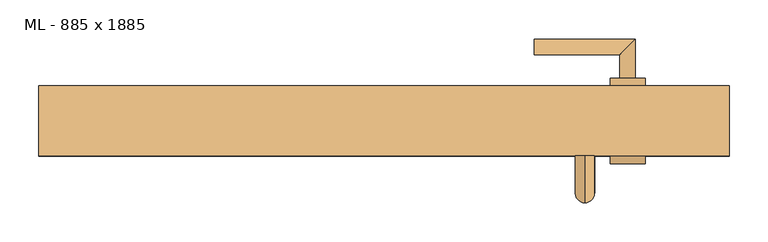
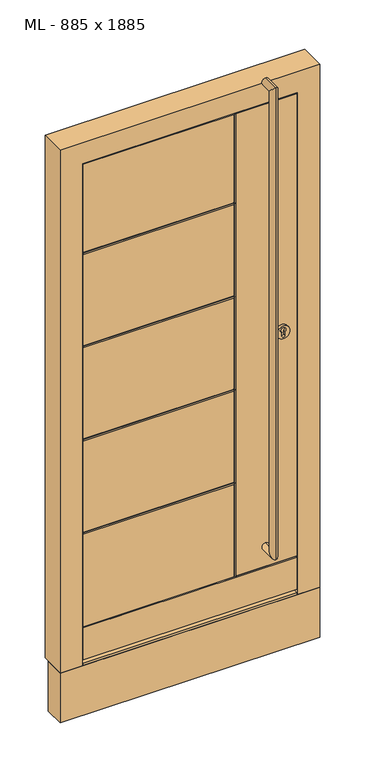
"""IFC4 building model written with IfcOpenShell, lengths in millimetres: door geometry, TU DF 1 - Haustüre : ML - 885 x 1885."""

from ifc_helpers import new_model, si_unit, point, frame, frame_2d, origin, place, context, project, spatial, polyline, circle_curve, ellipse_curve, trimmed, segment, composite_curve, outline, extrude, faceted_brep, source, transform, mapped, element, save
from ifc_brep_helpers import plane_surface, cylinder_surface, revolved_surface, advanced_brep


def ml_885_x_1885_d409164e(model_context):
    return source(origin(), model_context, "Body", "SolidModel", [
        advanced_brep(
        [(257.5, -230.0, 1875.0), (257.5, -230.0, 1900.0), (257.5, -230.0, 225.0), (257.5, -230.0, 200.0), (257.5, -265.0, 225.0), (257.5, -290.0, 200.0), (257.5, -290.0, 1900.0), (257.5, -265.0, 1875.0)],
        [
            (0, 1, circle_curve(frame((257.5, -230.0, 1887.5), z_axis=(0.0, 1.0, 0.0), x_axis=(0.0, 0.0, 1.0)), 12.5)),
            (1, 0, circle_curve(frame((257.5, -230.0, 1887.5), z_axis=(0.0, 1.0, 0.0), x_axis=(0.0, 0.0, 1.0)), 12.5)),
            (2, 3, circle_curve(frame((257.5, -230.0, 212.5), z_axis=(0.0, 1.0, 0.0), x_axis=(0.0, 0.0, -1.0)), 12.5)),
            (3, 2, circle_curve(frame((257.5, -230.0, 212.5), z_axis=(0.0, 1.0, 0.0), x_axis=(0.0, 0.0, -1.0)), 12.5)),
            (4, 5, ellipse_curve(frame((257.5, -277.5, 212.5), z_axis=(0.0, 0.7071067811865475, -0.7071067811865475), x_axis=(0.0, -0.7071067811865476, -0.7071067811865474)), 17.6776695, 12.5)),
            (5, 3),
            (2, 4),
            (5, 4, ellipse_curve(frame((257.5, -277.5, 212.5), z_axis=(0.0, 0.7071067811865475, -0.7071067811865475), x_axis=(0.0, -0.7071067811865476, -0.7071067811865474)), 17.6776695, 12.5)),
            (6, 7, ellipse_curve(frame((257.5, -277.5, 1887.5), z_axis=(0.0, -0.7071067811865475, -0.7071067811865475), x_axis=(0.0, -0.7071067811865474, 0.7071067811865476)), 17.6776695, 12.5)),
            (7, 4),
            (5, 6),
            (7, 6, ellipse_curve(frame((257.5, -277.5, 1887.5), z_axis=(0.0, -0.7071067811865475, -0.7071067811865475), x_axis=(0.0, -0.7071067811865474, 0.7071067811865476)), 17.6776695, 12.5)),
            (0, 7),
            (6, 1),
        ],
        [
            plane_surface(frame((257.5, -230.0, 1900.0), z_axis=(0.0, 1.0, 0.0), x_axis=(-1.0, 0.0, 0.0))),
            plane_surface(frame((257.5, -230.0, 200.0), z_axis=(0.0, 1.0, 0.0), x_axis=(-1.0, 0.0, 0.0))),
            cylinder_surface(frame((257.5, -290.0, 212.5), z_axis=(0.0, -1.0, 0.0), x_axis=(0.0, 0.0, -1.0)), 12.5),
            cylinder_surface(frame((257.5, -277.5, 1900.0), z_axis=(0.0, 0.0, 1.0), x_axis=(0.0, -1.0, 0.0)), 12.5),
            cylinder_surface(frame((257.5, -230.0, 1887.5), z_axis=(0.0, 1.0, 0.0), x_axis=(0.0, 0.0, 1.0)), 12.5),
        ],
        [
            (0, [[1, 2]]),
            (1, [[3, 4]]),
            (2, [[5, 6, -3, 7]]),
            (2, [[8, -7, -4, -6]]),
            (3, [[9, 10, -8, 11]]),
            (3, [[12, -11, -5, -10]]),
            (4, [[-1, 13, -9, 14]]),
            (4, [[-2, -14, -12, -13]]),
        ],
    ),
        advanced_brep(
        [(335.0, -230.0, 970.0), (290.0, -230.0, 970.0), (335.0, -240.0, 970.0), (290.0, -240.0, 970.0), (317.5, -240.0, 958.5), (307.5, -240.0, 958.5), (307.5, -240.0, 971.1261365), (317.5, -240.0, 971.1261365), (317.5, -232.0, 971.1261365), (317.5, -232.0, 958.5), (307.5, -232.0, 971.1261365), (307.5, -232.0, 958.5)],
        [
            (0, 1, circle_curve(frame((312.5, -230.0, 970.0), z_axis=(0.0, 1.0, 0.0), x_axis=(-1.0, 0.0, 0.0)), 22.5)),
            (1, 0, circle_curve(frame((312.5, -230.0, 970.0), z_axis=(0.0, 1.0, 0.0), x_axis=(-1.0, 0.0, 0.0)), 22.5)),
            (2, 3, circle_curve(frame((312.5, -240.0, 970.0), z_axis=(0.0, -1.0, 0.0), x_axis=(-1.0, 0.0, 0.0)), 22.5)),
            (3, 2, circle_curve(frame((312.5, -240.0, 970.0), z_axis=(0.0, -1.0, 0.0), x_axis=(-1.0, 0.0, 0.0)), 22.5)),
            (4, 5, circle_curve(frame((312.5, -240.0, 958.5), z_axis=(0.0, 1.0, 0.0), x_axis=(-1.0, 0.0, 0.0)), 5.0)),
            (5, 6),
            (6, 7, circle_curve(frame((312.5, -240.0, 978.0), z_axis=(0.0, 1.0, 0.0), x_axis=(-1.0, 0.0, 0.0)), 8.5)),
            (7, 4),
            (0, 2),
            (3, 1),
            (7, 8),
            (8, 9),
            (9, 4),
            (6, 10),
            (10, 8, circle_curve(frame((312.5, -232.0, 978.0), z_axis=(0.0, 1.0, 0.0), x_axis=(-1.0, 0.0, 0.0)), 8.5)),
            (5, 11),
            (11, 10),
            (9, 11, circle_curve(frame((312.5, -232.0, 958.5), z_axis=(0.0, 1.0, 0.0), x_axis=(-1.0, 0.0, 0.0)), 5.0)),
        ],
        [
            plane_surface(frame((290.0, -230.0, 970.0), z_axis=(0.0, 1.0, 0.0), x_axis=(0.0, 0.0, 1.0))),
            plane_surface(frame((290.0, -240.0, 970.0), z_axis=(0.0, -1.0, 0.0), x_axis=(0.0, 0.0, -1.0))),
            cylinder_surface(frame((312.5, -240.0, 970.0), z_axis=(0.0, 1.0, 0.0), x_axis=(-1.0, 0.0, 0.0)), 22.5),
            plane_surface(frame((317.5, -230.0, 958.5), z_axis=(-1.0, 0.0, 0.0), x_axis=(0.0, -1.0, 0.0))),
            revolved_surface(polyline([(304.0, -240.0, 978.0), (304.0, -232.0, 978.0)]), (312.5, -230.0, 978.0), (0.0, -1.0, 0.0)),
            plane_surface(frame((307.5, -230.0, 971.1261365), z_axis=(1.0, 0.0, 0.0), x_axis=(0.0, -1.0, 0.0))),
            revolved_surface(polyline([(307.5, -240.0, 958.5), (307.5, -232.0, 958.5)]), (312.5, -230.0, 958.5), (0.0, -1.0, 0.0)),
            plane_surface(frame((304.0, -232.0, 978.0), z_axis=(0.0, -1.0, 0.0), x_axis=(0.0, 0.0, -1.0))),
        ],
        [
            (0, [[1, 2]]),
            (1, [[3, 4], [5, 6, 7, 8]]),
            (2, [[-1, 9, -4, 10]]),
            (2, [[-2, -10, -3, -9]]),
            (3, [[-8, 11, 12, 13]]),
            (4, [[-7, 14, 15, -11]]),
            (5, [[-6, 16, 17, -14]]),
            (6, [[-5, -13, 18, -16]]),
            (7, [[-12, -15, -17, -18]]),
        ],
    ),
        advanced_brep(
        [(149.5, -140.0, 480.2), (-393.5, -140.0, 480.2), (-393.5, -140.0, 808.4), (149.5, -140.0, 808.4), (149.5, -140.0, 816.4), (-393.5, -140.0, 816.4), (-393.5, -140.0, 1144.6), (149.5, -140.0, 1144.6), (393.5, -140.0, 1836.0), (393.5, -140.0, 8.0), (157.5, -140.0, 8.0), (157.5, -140.0, 1836.0), (149.5, -140.0, 1152.6), (-393.5, -140.0, 1152.6), (-393.5, -140.0, 1480.8), (149.5, -140.0, 1480.8), (-393.5, -140.0, 8.0), (-393.5, -140.0, 136.0), (149.5, -140.0, 136.0), (149.5, -140.0, 8.0), (-393.5, -140.0, 144.0), (-393.5, -140.0, 472.2), (149.5, -140.0, 472.2), (149.5, -140.0, 144.0), (-393.5, -140.0, 1836.0), (149.5, -140.0, 1836.0), (149.5, -140.0, 1488.8), (-393.5, -140.0, 1488.8), (393.5, -160.0, 1836.0), (393.5, -160.0, 8.0), (-393.5, -160.0, 1836.0), (-393.5, -160.0, 8.0), (-378.5, -160.0, 1821.0), (378.5, -160.0, 1821.0), (378.5, -160.0, 20.0), (-378.5, -160.0, 20.0), (378.5, -210.0, 1821.0), (378.5, -210.0, 20.0), (-378.5, -210.0, 1821.0), (-378.5, -210.0, 20.0), (-363.5, -210.0, 1806.0), (363.5, -210.0, 1806.0), (363.5, -210.0, 140.0), (-363.5, -210.0, 140.0), (363.5, -230.0, 1806.0), (363.5, -230.0, 140.0), (-363.5, -230.0, 480.2), (149.5, -230.0, 480.2), (149.5, -230.0, 808.4), (-363.5, -230.0, 808.4), (-363.5, -230.0, 816.4), (149.5, -230.0, 816.4), (149.5, -230.0, 1144.6), (-363.5, -230.0, 1144.6), (-363.5, -230.0, 1152.6), (149.5, -230.0, 1152.6), (149.5, -230.0, 1480.8), (-363.5, -230.0, 1480.8), (157.5, -230.0, 1806.0), (157.5, -230.0, 140.0), (-363.5, -230.0, 472.2), (-363.5, -230.0, 140.0), (149.5, -230.0, 140.0), (149.5, -230.0, 472.2), (149.5, -230.0, 1806.0), (-363.5, -230.0, 1806.0), (-363.5, -230.0, 1488.8), (149.5, -230.0, 1488.8), (-363.5, -226.0, 476.2), (-363.5, -226.0, 812.4), (-363.5, -226.0, 1148.6), (-363.5, -226.0, 1484.8), (-393.5, -144.0, 1484.8), (-393.5, -144.0, 1148.6), (-393.5, -144.0, 812.4), (-393.5, -144.0, 476.2), (-393.5, -144.0, 140.0), (153.5, -144.0, 1836.0), (153.5, -226.0, 1806.0), (153.5, -144.0, 8.0), (153.5, -226.0, 140.0), (153.5, -226.0, 476.2), (153.5, -144.0, 476.2), (153.5, -144.0, 140.0), (153.5, -226.0, 1484.8), (153.5, -226.0, 1148.6), (153.5, -226.0, 812.4), (153.5, -144.0, 812.4), (153.5, -144.0, 1148.6), (153.5, -144.0, 1484.8)],
        [
            (0, 1),
            (1, 2),
            (2, 3),
            (3, 0),
            (4, 5),
            (5, 6),
            (6, 7),
            (7, 4),
            (8, 9),
            (9, 10),
            (10, 11),
            (11, 8),
            (12, 13),
            (13, 14),
            (14, 15),
            (15, 12),
            (16, 17),
            (17, 18),
            (18, 19),
            (19, 16),
            (20, 21),
            (21, 22),
            (22, 23),
            (23, 20),
            (24, 25),
            (25, 26),
            (26, 27),
            (27, 24),
            (8, 28),
            (28, 29),
            (29, 9),
            (28, 30),
            (30, 31),
            (31, 29),
            (32, 33),
            (33, 34),
            (34, 35),
            (35, 32),
            (33, 36),
            (36, 37),
            (37, 34),
            (36, 38),
            (38, 39),
            (39, 37),
            (40, 41),
            (41, 42),
            (42, 43),
            (43, 40),
            (41, 44),
            (44, 45),
            (45, 42),
            (46, 47),
            (47, 48),
            (48, 49),
            (49, 46),
            (50, 51),
            (51, 52),
            (52, 53),
            (53, 50),
            (54, 55),
            (55, 56),
            (56, 57),
            (57, 54),
            (44, 58),
            (58, 59),
            (59, 45),
            (60, 61),
            (61, 62),
            (62, 63),
            (63, 60),
            (64, 65),
            (65, 66),
            (66, 67),
            (67, 64),
            (65, 40),
            (43, 61),
            (60, 68, circle_curve(frame((-363.5, -226.0, 472.2), z_axis=(-1.0, 0.0, 0.0), x_axis=(0.0, -1.0, 0.0)), 4.0)),
            (68, 46, circle_curve(frame((-363.5, -226.0, 480.2), z_axis=(-1.0, 0.0, 0.0), x_axis=(0.0, -1.0, 0.0)), 4.0)),
            (49, 69, circle_curve(frame((-363.5, -226.0, 808.4), z_axis=(-1.0, 0.0, 0.0), x_axis=(0.0, -1.0, 0.0)), 4.0)),
            (69, 50, circle_curve(frame((-363.5, -226.0, 816.4), z_axis=(-1.0, 0.0, 0.0), x_axis=(0.0, -1.0, 0.0)), 4.0)),
            (53, 70, circle_curve(frame((-363.5, -226.0, 1144.6), z_axis=(-1.0, 0.0, 0.0), x_axis=(0.0, -1.0, 0.0)), 4.0)),
            (70, 54, circle_curve(frame((-363.5, -226.0, 1152.6), z_axis=(-1.0, 0.0, 0.0), x_axis=(0.0, -1.0, 0.0)), 4.0)),
            (57, 71, circle_curve(frame((-363.5, -226.0, 1480.8), z_axis=(-1.0, 0.0, 0.0), x_axis=(0.0, -1.0, 0.0)), 4.0)),
            (71, 66, circle_curve(frame((-363.5, -226.0, 1488.8), z_axis=(-1.0, 0.0, 0.0), x_axis=(0.0, -1.0, 0.0)), 4.0)),
            (38, 32),
            (35, 39),
            (30, 24),
            (27, 72, circle_curve(frame((-393.5, -144.0, 1488.8), z_axis=(-1.0, 0.0, 0.0), x_axis=(0.0, 1.0, 0.0)), 4.0)),
            (72, 14, circle_curve(frame((-393.5, -144.0, 1480.8), z_axis=(-1.0, 0.0, 0.0), x_axis=(0.0, 1.0, 0.0)), 4.0)),
            (13, 73, circle_curve(frame((-393.5, -144.0, 1152.6), z_axis=(-1.0, 0.0, 0.0), x_axis=(0.0, 1.0, 0.0)), 4.0)),
            (73, 6, circle_curve(frame((-393.5, -144.0, 1144.6), z_axis=(-1.0, 0.0, 0.0), x_axis=(0.0, 1.0, 0.0)), 4.0)),
            (5, 74, circle_curve(frame((-393.5, -144.0, 816.4), z_axis=(-1.0, 0.0, 0.0), x_axis=(0.0, 1.0, 0.0)), 4.0)),
            (74, 2, circle_curve(frame((-393.5, -144.0, 808.4), z_axis=(-1.0, 0.0, 0.0), x_axis=(0.0, 1.0, 0.0)), 4.0)),
            (1, 75, circle_curve(frame((-393.5, -144.0, 480.2), z_axis=(-1.0, 0.0, 0.0), x_axis=(0.0, 1.0, 0.0)), 4.0)),
            (75, 21, circle_curve(frame((-393.5, -144.0, 472.2), z_axis=(-1.0, 0.0, 0.0), x_axis=(0.0, 1.0, 0.0)), 4.0)),
            (20, 76, circle_curve(frame((-393.5, -144.0, 144.0), z_axis=(-1.0, 0.0, 0.0), x_axis=(0.0, 1.0, 0.0)), 4.0)),
            (76, 17, circle_curve(frame((-393.5, -144.0, 136.0), z_axis=(-1.0, 0.0, 0.0), x_axis=(0.0, 1.0, 0.0)), 4.0)),
            (16, 31),
            (11, 77, circle_curve(frame((157.5, -144.0, 1836.0), z_axis=(0.0, 0.0, 1.0), x_axis=(0.0, 1.0, 0.0)), 4.0)),
            (77, 25, circle_curve(frame((149.5, -144.0, 1836.0), z_axis=(0.0, 0.0, 1.0), x_axis=(0.0, 1.0, 0.0)), 4.0)),
            (64, 78, circle_curve(frame((149.5, -226.0, 1806.0), z_axis=(0.0, 0.0, 1.0), x_axis=(0.0, -1.0, 0.0)), 4.0)),
            (78, 58, circle_curve(frame((157.5, -226.0, 1806.0), z_axis=(0.0, 0.0, 1.0), x_axis=(0.0, -1.0, 0.0)), 4.0)),
            (19, 79, circle_curve(frame((149.5, -144.0, 8.0), z_axis=(0.0, 0.0, -1.0), x_axis=(0.0, 1.0, 0.0)), 4.0)),
            (79, 10, circle_curve(frame((157.5, -144.0, 8.0), z_axis=(0.0, 0.0, -1.0), x_axis=(0.0, 1.0, 0.0)), 4.0)),
            (59, 80, circle_curve(frame((157.5, -226.0, 140.0), z_axis=(0.0, 0.0, -1.0), x_axis=(0.0, -1.0, 0.0)), 4.0)),
            (80, 62, circle_curve(frame((149.5, -226.0, 140.0), z_axis=(0.0, 0.0, -1.0), x_axis=(0.0, -1.0, 0.0)), 4.0)),
            (81, 68),
            (63, 81, ellipse_curve(frame((149.5, -226.0, 472.2), z_axis=(-0.7071067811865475, 0.0, 0.7071067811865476), x_axis=(-0.7071067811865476, 0.0, -0.7071067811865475)), 5.6568542, 4.0)),
            (81, 47, ellipse_curve(frame((149.5, -226.0, 480.2), z_axis=(-0.7071067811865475, 0.0, -0.7071067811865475), x_axis=(-0.7071067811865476, 0.0, 0.7071067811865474)), 5.6568542, 4.0)),
            (75, 82),
            (82, 22, ellipse_curve(frame((149.5, -144.0, 472.2), z_axis=(-0.7071067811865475, 0.0, 0.7071067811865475), x_axis=(0.7071067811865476, 0.0, 0.7071067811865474)), 5.6568542, 4.0)),
            (0, 82, ellipse_curve(frame((149.5, -144.0, 480.2), z_axis=(-0.7071067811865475, 0.0, -0.7071067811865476), x_axis=(0.7071067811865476, 0.0, -0.7071067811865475)), 5.6568542, 4.0)),
            (76, 83),
            (83, 18, ellipse_curve(frame((149.5, -144.0, 136.0), z_axis=(-0.7071067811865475, 0.0, 0.7071067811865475), x_axis=(-0.7071067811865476, 0.0, -0.7071067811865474)), 5.6568542, 4.0)),
            (23, 83, ellipse_curve(frame((149.5, -144.0, 144.0), z_axis=(-0.7071067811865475, 0.0, -0.7071067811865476), x_axis=(-0.7071067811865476, 0.0, 0.7071067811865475)), 5.6568542, 4.0)),
            (81, 80),
            (78, 84),
            (84, 85),
            (85, 86),
            (86, 81),
            (67, 84, ellipse_curve(frame((149.5, -226.0, 1488.8), z_axis=(0.7071067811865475, 0.0, 0.7071067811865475), x_axis=(-0.7071067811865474, 0.0, 0.7071067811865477)), 5.6568542, 4.0)),
            (86, 48, ellipse_curve(frame((149.5, -226.0, 808.4), z_axis=(0.7071067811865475, 0.0, -0.7071067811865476), x_axis=(0.7071067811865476, 0.0, 0.7071067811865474)), 5.6568542, 4.0)),
            (51, 86, ellipse_curve(frame((149.5, -226.0, 816.4), z_axis=(0.7071067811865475, 0.0, 0.7071067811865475), x_axis=(-0.7071067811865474, 0.0, 0.7071067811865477)), 5.6568542, 4.0)),
            (85, 52, ellipse_curve(frame((149.5, -226.0, 1144.6), z_axis=(0.7071067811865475, 0.0, -0.7071067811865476), x_axis=(0.7071067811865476, 0.0, 0.7071067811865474)), 5.6568542, 4.0)),
            (55, 85, ellipse_curve(frame((149.5, -226.0, 1152.6), z_axis=(0.7071067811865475, 0.0, 0.7071067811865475), x_axis=(-0.7071067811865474, 0.0, 0.7071067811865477)), 5.6568542, 4.0)),
            (84, 56, ellipse_curve(frame((149.5, -226.0, 1480.8), z_axis=(0.7071067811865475, 0.0, -0.7071067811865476), x_axis=(0.7071067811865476, 0.0, 0.7071067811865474)), 5.6568542, 4.0)),
            (86, 69),
            (83, 82),
            (82, 87),
            (87, 88),
            (88, 89),
            (89, 77),
            (79, 83),
            (89, 26, ellipse_curve(frame((149.5, -144.0, 1488.8), z_axis=(0.7071067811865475, 0.0, 0.7071067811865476), x_axis=(0.7071067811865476, 0.0, -0.7071067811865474)), 5.6568542, 4.0)),
            (3, 87, ellipse_curve(frame((149.5, -144.0, 808.4), z_axis=(0.7071067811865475, 0.0, -0.7071067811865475), x_axis=(-0.7071067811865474, 0.0, -0.7071067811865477)), 5.6568542, 4.0)),
            (87, 4, ellipse_curve(frame((149.5, -144.0, 816.4), z_axis=(0.7071067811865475, 0.0, 0.7071067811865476), x_axis=(0.7071067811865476, 0.0, -0.7071067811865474)), 5.6568542, 4.0)),
            (7, 88, ellipse_curve(frame((149.5, -144.0, 1144.6), z_axis=(0.7071067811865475, 0.0, -0.7071067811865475), x_axis=(-0.7071067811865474, 0.0, -0.7071067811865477)), 5.6568542, 4.0)),
            (88, 12, ellipse_curve(frame((149.5, -144.0, 1152.6), z_axis=(0.7071067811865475, 0.0, 0.7071067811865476), x_axis=(0.7071067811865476, 0.0, -0.7071067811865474)), 5.6568542, 4.0)),
            (15, 89, ellipse_curve(frame((149.5, -144.0, 1480.8), z_axis=(0.7071067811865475, 0.0, -0.7071067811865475), x_axis=(-0.7071067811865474, 0.0, -0.7071067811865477)), 5.6568542, 4.0)),
            (74, 87),
            (73, 88),
            (85, 70),
            (72, 89),
            (84, 71),
        ],
        [
            plane_surface(frame((393.5, -140.0, 1836.0), z_axis=(0.0, 1.0, 0.0), x_axis=(0.0, 0.0, -1.0))),
            plane_surface(frame((393.5, -230.0, 1836.0), z_axis=(1.0, 0.0, 0.0), x_axis=(0.0, 0.0, -1.0))),
            plane_surface(frame((378.5, -160.0, 0.0), z_axis=(0.0, -1.0, 0.0), x_axis=(0.0, 0.0, 1.0))),
            plane_surface(frame((378.5, -210.0, 0.0), z_axis=(1.0, 0.0, 0.0), x_axis=(0.0, 0.0, 1.0))),
            plane_surface(frame((363.5, -210.0, 0.0), z_axis=(0.0, -1.0, 0.0), x_axis=(0.0, 0.0, 1.0))),
            plane_surface(frame((363.5, -230.0, 0.0), z_axis=(1.0, 0.0, 0.0), x_axis=(0.0, 0.0, 1.0))),
            plane_surface(frame((-393.5, -230.0, 1836.0), z_axis=(0.0, -1.0, 0.0), x_axis=(0.0, 0.0, -1.0))),
            plane_surface(frame((-363.5, -230.0, 1806.0), z_axis=(-1.0, 0.0, 0.0), x_axis=(0.0, 0.0, -1.0))),
            plane_surface(frame((-378.5, -210.0, 1821.0), z_axis=(-1.0, 0.0, 0.0), x_axis=(0.0, 0.0, -1.0))),
            plane_surface(frame((-393.5, -140.0, 1836.0), z_axis=(-1.0, 0.0, 0.0), x_axis=(0.0, 0.0, -1.0))),
            plane_surface(frame((393.5, -230.0, 1836.0), z_axis=(0.0, 0.0, 1.0), x_axis=(1.0, 0.0, 0.0))),
            plane_surface(frame((363.5, -230.0, 1806.0), z_axis=(0.0, 0.0, 1.0), x_axis=(-1.0, 0.0, 0.0))),
            plane_surface(frame((378.5, -210.0, 1821.0), z_axis=(0.0, 0.0, 1.0), x_axis=(-1.0, 0.0, 0.0))),
            plane_surface(frame((-393.5, -230.0, 20.0), z_axis=(0.0, 0.0, -1.0), x_axis=(1.0, 0.0, 0.0))),
            plane_surface(frame((-393.5, -160.0, 8.0), z_axis=(0.0, 0.0, -1.0), x_axis=(1.0, 0.0, 0.0))),
            plane_surface(frame((-393.5, -230.0, 140.0), z_axis=(0.0, 0.0, -1.0), x_axis=(1.0, 0.0, 0.0))),
            cylinder_surface(frame((153.5, -226.0, 472.2), z_axis=(-1.0, 0.0, 0.0), x_axis=(0.0, -1.0, 0.0)), 4.0),
            cylinder_surface(frame((153.5, -226.0, 480.2), z_axis=(-1.0, 0.0, 0.0), x_axis=(0.0, -1.0, 0.0)), 4.0),
            cylinder_surface(frame((-433.5, -144.0, 472.2), z_axis=(1.0, 0.0, 0.0), x_axis=(0.0, 1.0, 0.0)), 4.0),
            cylinder_surface(frame((-433.5, -144.0, 480.2), z_axis=(1.0, 0.0, 0.0), x_axis=(0.0, 1.0, 0.0)), 4.0),
            cylinder_surface(frame((153.5, -144.0, 136.0), z_axis=(-1.0, 0.0, 0.0), x_axis=(0.0, 1.0, 0.0)), 4.0),
            cylinder_surface(frame((153.5, -144.0, 144.0), z_axis=(-1.0, 0.0, 0.0), x_axis=(0.0, 1.0, 0.0)), 4.0),
            cylinder_surface(frame((157.5, -226.0, -10.0), z_axis=(0.0, 0.0, 1.0), x_axis=(0.0, -1.0, 0.0)), 4.0),
            cylinder_surface(frame((149.5, -226.0, -10.0), z_axis=(0.0, 0.0, 1.0), x_axis=(0.0, -1.0, 0.0)), 4.0),
            cylinder_surface(frame((153.5, -226.0, 808.4), z_axis=(-1.0, 0.0, 0.0), x_axis=(0.0, -1.0, 0.0)), 4.0),
            cylinder_surface(frame((153.5, -226.0, 816.4), z_axis=(-1.0, 0.0, 0.0), x_axis=(0.0, -1.0, 0.0)), 4.0),
            cylinder_surface(frame((157.5, -144.0, 1846.0), z_axis=(0.0, 0.0, -1.0), x_axis=(0.0, 1.0, 0.0)), 4.0),
            cylinder_surface(frame((149.5, -144.0, 1846.0), z_axis=(0.0, 0.0, -1.0), x_axis=(0.0, 1.0, 0.0)), 4.0),
            cylinder_surface(frame((-433.5, -144.0, 808.4), z_axis=(1.0, 0.0, 0.0), x_axis=(0.0, 1.0, 0.0)), 4.0),
            cylinder_surface(frame((-433.5, -144.0, 816.4), z_axis=(1.0, 0.0, 0.0), x_axis=(0.0, 1.0, 0.0)), 4.0),
            cylinder_surface(frame((-433.5, -144.0, 1144.6), z_axis=(1.0, 0.0, 0.0), x_axis=(0.0, 1.0, 0.0)), 4.0),
            cylinder_surface(frame((-433.5, -144.0, 1152.6), z_axis=(1.0, 0.0, 0.0), x_axis=(0.0, 1.0, 0.0)), 4.0),
            cylinder_surface(frame((153.5, -226.0, 1144.6), z_axis=(-1.0, 0.0, 0.0), x_axis=(0.0, -1.0, 0.0)), 4.0),
            cylinder_surface(frame((153.5, -226.0, 1152.6), z_axis=(-1.0, 0.0, 0.0), x_axis=(0.0, -1.0, 0.0)), 4.0),
            cylinder_surface(frame((-433.5, -144.0, 1480.8), z_axis=(1.0, 0.0, 0.0), x_axis=(0.0, 1.0, 0.0)), 4.0),
            cylinder_surface(frame((-433.5, -144.0, 1488.8), z_axis=(1.0, 0.0, 0.0), x_axis=(0.0, 1.0, 0.0)), 4.0),
            cylinder_surface(frame((153.5, -226.0, 1480.8), z_axis=(-1.0, 0.0, 0.0), x_axis=(0.0, -1.0, 0.0)), 4.0),
            cylinder_surface(frame((153.5, -226.0, 1488.8), z_axis=(-1.0, 0.0, 0.0), x_axis=(0.0, -1.0, 0.0)), 4.0),
        ],
        [
            (0, [[1, 2, 3, 4]]),
            (0, [[5, 6, 7, 8]]),
            (0, [[9, 10, 11, 12]]),
            (0, [[13, 14, 15, 16]]),
            (0, [[17, 18, 19, 20]]),
            (0, [[21, 22, 23, 24]]),
            (0, [[25, 26, 27, 28]]),
            (1, [[29, 30, 31, -9]]),
            (2, [[32, 33, 34, -30], [35, 36, 37, 38]]),
            (3, [[39, 40, 41, -36]]),
            (4, [[42, 43, 44, -40], [45, 46, 47, 48]]),
            (5, [[49, 50, 51, -46]]),
            (6, [[52, 53, 54, 55]]),
            (6, [[56, 57, 58, 59]]),
            (6, [[60, 61, 62, 63]]),
            (6, [[-50, 64, 65, 66]]),
            (6, [[67, 68, 69, 70]]),
            (6, [[71, 72, 73, 74]]),
            (7, [[75, -48, 76, -67, 77, 78, -55, 79, 80, -59, 81, 82, -63, 83, 84, -72]]),
            (8, [[85, -38, 86, -43]]),
            (9, [[87, -28, 88, 89, -14, 90, 91, -6, 92, 93, -2, 94, 95, -21, 96, 97, -17, 98, -33]]),
            (10, [[-29, -12, 99, 100, -25, -87, -32]]),
            (11, [[-49, -45, -75, -71, 101, 102, -64]]),
            (12, [[-42, -39, -35, -85]]),
            (13, [[-37, -41, -44, -86]]),
            (14, [[-31, -34, -98, -20, 103, 104, -10]]),
            (15, [[-47, -51, -66, 105, 106, -68, -76]]),
            (16, [[107, -77, -70, 108]]),
            (17, [[-107, 109, -52, -78]]),
            (18, [[110, 111, -22, -95]]),
            (19, [[-110, -94, -1, 112]]),
            (20, [[113, 114, -18, -97]]),
            (21, [[-113, -96, -24, 115]]),
            (22, [[116, -105, -65, -102, 117, 118, 119, 120]]),
            (23, [[-101, -74, 121, -117]]),
            (23, [[-109, -120, 122, -53]]),
            (23, [[-116, -108, -69, -106]]),
            (23, [[123, -119, 124, -57]]),
            (23, [[125, -118, 126, -61]]),
            (24, [[127, -79, -54, -122]]),
            (25, [[-127, -123, -56, -80]]),
            (26, [[128, 129, 130, 131, 132, -99, -11, -104, 133]]),
            (27, [[-100, -132, 134, -26]]),
            (27, [[-112, -4, 135, -129]]),
            (27, [[-133, -103, -19, -114]]),
            (27, [[-128, -115, -23, -111]]),
            (27, [[136, -8, 137, -130]]),
            (27, [[138, -16, 139, -131]]),
            (28, [[140, -135, -3, -93]]),
            (29, [[-140, -92, -5, -136]]),
            (30, [[141, -137, -7, -91]]),
            (31, [[-141, -90, -13, -138]]),
            (32, [[142, -81, -58, -124]]),
            (33, [[-142, -125, -60, -82]]),
            (34, [[143, -139, -15, -89]]),
            (35, [[-143, -88, -27, -134]]),
            (36, [[144, -83, -62, -126]]),
            (37, [[-144, -121, -73, -84]]),
        ],
    ),
        extrude(outline(polyline([(-210.0, 140.0), (-210.0, 20.0), (-221.9609036, 20.0), (-221.9609036, 24.0), (-225.9609036, 24.0), (-225.9609036, 20.0), (-230.0, 20.0), (-230.0, 136.0), (-226.0, 136.0), (-226.0, 140.0), (-210.0, 140.0)])), frame((-363.5, 0.0, 0.0), z_axis=(1.0, 0.0, 0.0), x_axis=(0.0, 1.0, 0.0)), (0.0, 0.0, 1.0), 727.0),
        faceted_brep([(363.5, -210.0, 0.0), (363.5, -210.0, 9.0), (363.5, -230.0, 7.0), (363.5, -230.0, 0.0), (-363.5, -210.0, 0.0), (-363.5, -210.0, 9.0), (-378.5, -210.0, 9.0), (-378.5, -210.0, 0.0), (378.5, -210.0, 0.0), (378.5, -210.0, 9.0), (378.5, -160.0, 0.0), (378.5, -160.0, 15.0), (378.5, -180.0, 15.0), (378.5, -180.0, 12.0), (-363.5, -230.0, 0.0), (-363.5, -230.0, 7.0), (-378.5, -180.0, 12.0), (-378.5, -180.0, 15.0), (-378.5, -160.0, 15.0), (-378.5, -160.0, 0.0)], [[[0, 1, 2, 3]], [[4, 5, 6, 7]], [[1, 0, 8, 9]], [[9, 8, 10, 11, 12, 13]], [[5, 4, 14, 15]], [[7, 6, 16, 17, 18, 19]], [[18, 11, 10, 19]], [[19, 10, 8, 0, 3, 14, 4, 7]], [[14, 3, 2, 15]], [[11, 18, 17, 12]], [[15, 2, 1, 9, 13, 16, 6, 5]], [[12, 17, 16, 13]]]),
        advanced_brep(
        [(335.0, -140.0, 970.0), (290.0, -140.0, 970.0), (335.0, -130.0, 970.0), (290.0, -130.0, 970.0), (317.5, -130.0, 958.5), (317.5, -130.0, 971.1261365), (307.5, -130.0, 971.1261365), (307.5, -130.0, 958.5), (317.5, -138.0, 958.5), (317.5, -138.0, 971.1261365), (307.5, -138.0, 971.1261365), (307.5, -138.0, 958.5)],
        [
            (0, 1, circle_curve(frame((312.5, -140.0, 970.0), z_axis=(0.0, -1.0, 0.0), x_axis=(-1.0, 0.0, 0.0)), 22.5)),
            (1, 0, circle_curve(frame((312.5, -140.0, 970.0), z_axis=(0.0, -1.0, 0.0), x_axis=(-1.0, 0.0, 0.0)), 22.5)),
            (2, 3, circle_curve(frame((312.5, -130.0, 970.0), z_axis=(0.0, 1.0, 0.0), x_axis=(-1.0, 0.0, 0.0)), 22.5)),
            (3, 2, circle_curve(frame((312.5, -130.0, 970.0), z_axis=(0.0, 1.0, 0.0), x_axis=(-1.0, 0.0, 0.0)), 22.5)),
            (4, 5),
            (5, 6, circle_curve(frame((312.5, -130.0, 978.0), z_axis=(0.0, -1.0, 0.0), x_axis=(-1.0, 0.0, 0.0)), 8.5)),
            (6, 7),
            (7, 4, circle_curve(frame((312.5, -130.0, 958.5), z_axis=(0.0, -1.0, 0.0), x_axis=(-1.0, 0.0, 0.0)), 5.0)),
            (1, 3),
            (2, 0),
            (4, 8),
            (8, 9),
            (9, 5),
            (9, 10, circle_curve(frame((312.5, -138.0, 978.0), z_axis=(0.0, -1.0, 0.0), x_axis=(-1.0, 0.0, 0.0)), 8.5)),
            (10, 6),
            (10, 11),
            (11, 7),
            (11, 8, circle_curve(frame((312.5, -138.0, 958.5), z_axis=(0.0, -1.0, 0.0), x_axis=(-1.0, 0.0, 0.0)), 5.0)),
        ],
        [
            plane_surface(frame((290.0, -140.0, 970.0), z_axis=(0.0, -1.0, 0.0), x_axis=(0.0, 0.0, 1.0))),
            plane_surface(frame((290.0, -130.0, 970.0), z_axis=(0.0, 1.0, 0.0), x_axis=(0.0, 0.0, -1.0))),
            cylinder_surface(frame((312.5, -130.0, 970.0), z_axis=(0.0, -1.0, 0.0), x_axis=(-1.0, 0.0, 0.0)), 22.5),
            plane_surface(frame((317.5, -140.0, 958.5), z_axis=(-1.0, 0.0, 0.0), x_axis=(0.0, 1.0, 0.0))),
            revolved_surface(polyline([(304.0, -130.0, 978.0), (304.0, -138.0, 978.0)]), (312.5, -140.0, 978.0), (0.0, 1.0, 0.0)),
            plane_surface(frame((307.5, -140.0, 971.1261365), z_axis=(1.0, 0.0, 0.0), x_axis=(0.0, 1.0, 0.0))),
            revolved_surface(polyline([(307.5, -130.0, 958.5), (307.5, -138.0, 958.5)]), (312.5, -140.0, 958.5), (0.0, 1.0, 0.0)),
            plane_surface(frame((317.5, -138.0, 958.5), z_axis=(0.0, 1.0, 0.0), x_axis=(0.0, 0.0, 1.0))),
        ],
        [
            (0, [[1, 2]]),
            (1, [[3, 4], [5, 6, 7, 8]]),
            (2, [[9, -3, 10, -2]]),
            (2, [[-10, -4, -9, -1]]),
            (3, [[11, 12, 13, -5]]),
            (4, [[-13, 14, 15, -6]]),
            (5, [[-15, 16, 17, -7]]),
            (6, [[-17, 18, -11, -8]]),
            (7, [[-18, -16, -14, -12]]),
        ],
    ),
        advanced_brep(
        [(302.5, -130.0, 1050.0), (322.5, -130.0, 1050.0), (322.5, -80.0, 1050.0), (302.5, -100.0, 1050.0), (192.5, -100.0, 1050.0), (192.5, -80.0, 1050.0)],
        [
            (0, 1, circle_curve(frame((312.5, -130.0, 1050.0), z_axis=(0.0, -1.0, 0.0), x_axis=(1.0, 0.0, 0.0)), 10.0)),
            (1, 0, circle_curve(frame((312.5, -130.0, 1050.0), z_axis=(0.0, -1.0, 0.0), x_axis=(1.0, 0.0, 0.0)), 10.0)),
            (1, 2),
            (2, 3, ellipse_curve(frame((312.5, -90.0, 1050.0), z_axis=(0.7071067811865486, -0.7071067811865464, 0.0), x_axis=(-0.7071067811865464, -0.7071067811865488, 0.0)), 14.1421356, 10.0)),
            (3, 0),
            (3, 2, ellipse_curve(frame((312.5, -90.0, 1050.0), z_axis=(0.7071067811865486, -0.7071067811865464, 0.0), x_axis=(-0.7071067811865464, -0.7071067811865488, 0.0)), 14.1421356, 10.0)),
            (4, 5, circle_curve(frame((192.5, -90.0, 1050.0), z_axis=(-1.0, 0.0, 0.0), x_axis=(0.0, 1.0, 0.0)), 10.0)),
            (5, 4, circle_curve(frame((192.5, -90.0, 1050.0), z_axis=(-1.0, 0.0, 0.0), x_axis=(0.0, 1.0, 0.0)), 10.0)),
            (2, 5),
            (4, 3),
        ],
        [
            plane_surface(frame((312.5, -130.0, 1050.0), z_axis=(0.0, -1.0, 0.0), x_axis=(0.0, 0.0, 1.0))),
            cylinder_surface(frame((312.5, -130.0, 1050.0), z_axis=(0.0, -1.0, 0.0), x_axis=(1.0, 0.0, 0.0)), 10.0),
            plane_surface(frame((192.5, -90.0, 1050.0), z_axis=(-1.0, 0.0, 0.0), x_axis=(0.0, 0.0, 1.0))),
            cylinder_surface(frame((312.5, -90.0, 1050.0), z_axis=(1.0, 0.0, 0.0), x_axis=(0.0, 1.0, 0.0)), 10.0),
        ],
        [
            (0, [[1, 2]]),
            (1, [[3, 4, 5, -2]]),
            (1, [[-5, 6, -3, -1]]),
            (2, [[7, 8]]),
            (3, [[9, -7, 10, -4]]),
            (3, [[-10, -8, -9, -6]]),
        ],
    ),
        advanced_brep(
        [(302.5, -130.0, 1050.0), (322.5, -130.0, 1050.0), (322.5, -80.0, 1050.0), (302.5, -100.0, 1050.0), (192.5, -100.0, 1050.0), (192.5, -80.0, 1050.0)],
        [
            (0, 1, circle_curve(frame((312.5, -130.0, 1050.0), z_axis=(0.0, -1.0, 0.0), x_axis=(1.0, 0.0, 0.0)), 10.0)),
            (1, 0, circle_curve(frame((312.5, -130.0, 1050.0), z_axis=(0.0, -1.0, 0.0), x_axis=(1.0, 0.0, 0.0)), 10.0)),
            (1, 2),
            (2, 3, ellipse_curve(frame((312.5, -90.0, 1050.0), z_axis=(0.7071067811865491, -0.7071067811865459, 0.0), x_axis=(-0.7071067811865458, -0.7071067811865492, 0.0)), 14.1421356, 10.0)),
            (3, 0),
            (3, 2, ellipse_curve(frame((312.5, -90.0, 1050.0), z_axis=(0.7071067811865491, -0.7071067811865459, 0.0), x_axis=(-0.7071067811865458, -0.7071067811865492, 0.0)), 14.1421356, 10.0)),
            (4, 5, circle_curve(frame((192.5, -90.0, 1050.0), z_axis=(-1.0, 0.0, 0.0), x_axis=(0.0, 1.0, 0.0)), 10.0)),
            (5, 4, circle_curve(frame((192.5, -90.0, 1050.0), z_axis=(-1.0, 0.0, 0.0), x_axis=(0.0, 1.0, 0.0)), 10.0)),
            (2, 5),
            (4, 3),
        ],
        [
            plane_surface(frame((312.5, -130.0, 1050.0), z_axis=(0.0, -1.0, 0.0), x_axis=(0.0, 0.0, 1.0))),
            cylinder_surface(frame((312.5, -130.0, 1050.0), z_axis=(0.0, -1.0, 0.0), x_axis=(1.0, 0.0, 0.0)), 10.0),
            plane_surface(frame((192.5, -90.0, 1050.0), z_axis=(-1.0, 0.0, 0.0), x_axis=(0.0, 0.0, 1.0))),
            cylinder_surface(frame((312.5, -90.0, 1050.0), z_axis=(1.0, 0.0, 0.0), x_axis=(0.0, 1.0, 0.0)), 10.0),
        ],
        [
            (0, [[1, 2]]),
            (1, [[3, 4, 5, -2]]),
            (1, [[-5, 6, -3, -1]]),
            (2, [[7, 8]]),
            (3, [[9, -7, 10, -4]]),
            (3, [[-10, -8, -9, -6]]),
        ],
    ),
        extrude(outline(composite_curve([segment(trimmed(circle_curve(frame_2d((1050.0, 312.5)), 22.5), [point((1050.0, 335.0))], [point((1050.0, 290.0))], False, "CARTESIAN"), True, "CONTINUOUS"), segment(trimmed(circle_curve(frame_2d((1050.0, 312.5)), 22.5), [point((1050.0, 290.0))], [point((1050.0, 335.0))], False, "CARTESIAN"), True, "CONTINUOUS")], self_intersect=False)), frame((0.0, -140.0, 0.0), z_axis=(0.0, 1.0, 0.0), x_axis=(0.0, 0.0, 1.0)), (0.0, 0.0, 1.0), 10.0),
        faceted_brep([(-442.5, -140.0, 1885.0), (442.5, -140.0, 1885.0), (442.5, -140.0, 0.0), (397.5, -140.0, 0.0), (397.5, -140.0, 1840.0), (-397.5, -140.0, 1840.0), (-397.5, -140.0, 0.0), (-442.5, -140.0, 0.0), (-442.5, -230.0, 0.0), (-442.5, -230.0, 1885.0), (-397.5, -160.0, 0.0), (-382.5, -160.0, 0.0), (-382.5, -210.0, 0.0), (-367.5, -210.0, 0.0), (-367.5, -230.0, 0.0), (-397.5, -160.0, 1840.0), (397.5, -160.0, 1840.0), (397.5, -160.0, 0.0), (367.5, -230.0, 0.0), (367.5, -210.0, 0.0), (382.5, -210.0, 0.0), (382.5, -160.0, 0.0), (442.5, -230.0, 0.0), (442.5, -230.0, 1885.0), (-367.5, -230.0, 1810.0), (367.5, -230.0, 1810.0), (367.5, -210.0, 1810.0), (-367.5, -210.0, 1810.0), (382.5, -160.0, 1825.0), (-382.5, -160.0, 1825.0), (382.5, -210.0, 1825.0), (-382.5, -210.0, 1825.0)], [[[0, 1, 2, 3, 4, 5, 6, 7]], [[7, 8, 9, 0]], [[8, 7, 6, 10, 11, 12, 13, 14]], [[10, 6, 5, 15]], [[16, 4, 3, 17]], [[18, 19, 20, 21, 17, 3, 2, 22]], [[1, 23, 22, 2]], [[9, 8, 14, 24, 25, 18, 22, 23]], [[25, 26, 19, 18]], [[14, 13, 27, 24]], [[15, 16, 17, 21, 28, 29, 11, 10]], [[21, 20, 30, 28]], [[31, 30, 20, 19, 26, 27, 13, 12]], [[29, 31, 12, 11]], [[0, 9, 23, 1]], [[24, 27, 26, 25]], [[5, 4, 16, 15]], [[28, 30, 31, 29]]]),
        extrude(outline(polyline([(442.5, -230.0), (-442.5, -230.0), (-442.5, -160.0), (442.5, -160.0), (442.5, -230.0)])), frame((0.0, 0.0, -180.0), z_axis=(0.0, 0.0, 1.0), x_axis=(1.0, 0.0, 0.0)), (0.0, 0.0, 1.0), 180.0),
    ])


if __name__ == "__main__":
    model = new_model("IFC4")
    model_context = context("Model", 3, world=origin())
    ifc_project = project(units=[si_unit("LENGTHUNIT", "METRE", prefix="MILLI")], contexts=[model_context])
    site = spatial("IfcSite", under=ifc_project)
    building = spatial("IfcBuilding", under=site)
    placement = place(None, origin())
    ml_885_x_1885_shape = ml_885_x_1885_d409164e(model_context)
    element("IfcDoor", 1, ObjectType="TU DF 1 - Haustüre : ML - 885 x 1885", at=placement, inside=building, context=model_context, shape_type="MappedRepresentation", body=[
        mapped(ml_885_x_1885_shape, transform((0.0, 0.0, 0.0), x_axis=(1.0, 0.0, 0.0), y_axis=(0.0, 1.0, 0.0), z_axis=(0.0, 0.0, 1.0))),
    ])
    save(model, "model.ifc")
